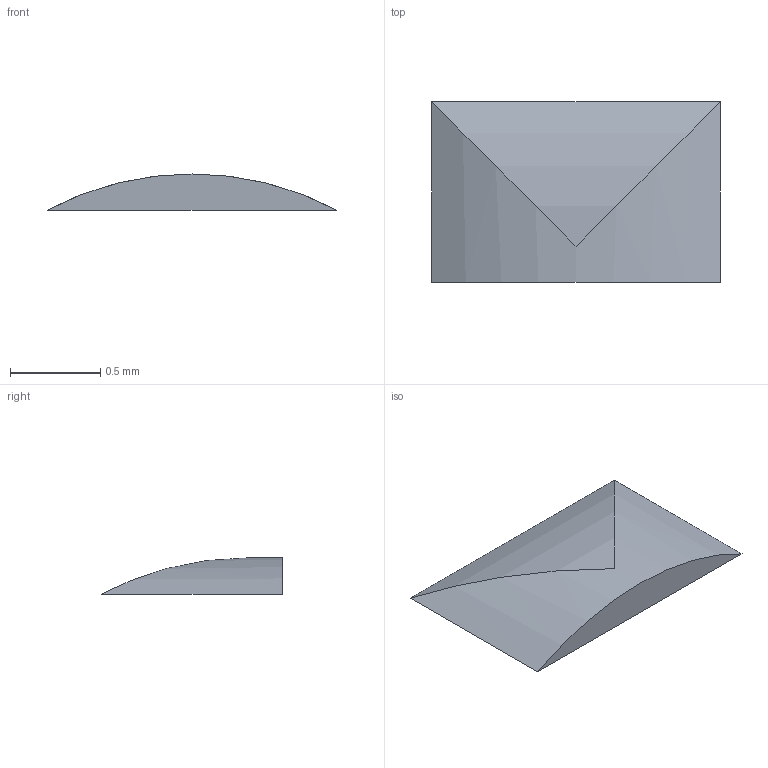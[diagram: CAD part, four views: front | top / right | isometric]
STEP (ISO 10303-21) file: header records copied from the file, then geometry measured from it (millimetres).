
FILE_DESCRIPTION(/* description */ ('STEP AP242 Edition 2','CAx-IF Rec.Pracs.---Representation and Presentation of Product Manufacturing Information (PMI)---4.0---2014-10-13','CAx-IF Rec.Pracs.---3D Tessellated Geometry---0.4---2014-09-14','2;1','CAx-IF Rec.Pracs.---User Defined Attributes---1.5---2016-08-15'),/* implementation_level */ '2;1');
FILE_NAME(/* name */ 'Drone Layout - Surface 255',/* time_stamp */ '2026-10-04T22:22:54Z',/* author */ (''),/* organization */ (''),/* preprocessor_version */ 'ST-DEVELOPER v20',/* originating_system */ 'ONSHAPE BY PTC INC, 1.221',/* authorisation */ ' ');
FILE_SCHEMA (('AP242_MANAGED_MODEL_BASED_3D_ENGINEERING_MIM_LF { 1 0 10303 442 3 1 4 }'));
Length unit declared in the file: metre
Products named in the file (1): diode:1__pad (1)
Bounding box: 1.6 x 1 x 0.2 mm (x, y, z)
Volume: 0.2 mm3; surface area: 3.5 mm2
Topology: 1 solids, 1 shells, 4 faces, 7 edges, 5 vertices
Faces by surface type: cylinder 2, plane 2
Entity records: 115 total; most frequent: CARTESIAN_POINT 23, DIRECTION 16, ORIENTED_EDGE 14, EDGE_CURVE 7, AXIS2_PLACEMENT_3D 6, VERTEX_POINT 5, LINE 4, VECTOR 4
